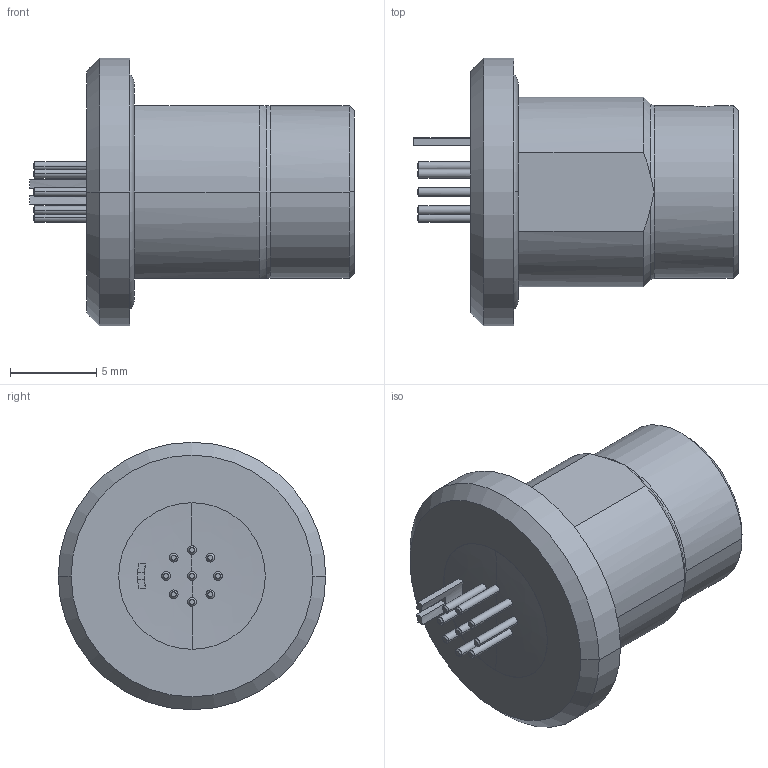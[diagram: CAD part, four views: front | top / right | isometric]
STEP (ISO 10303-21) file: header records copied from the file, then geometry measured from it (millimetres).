
FILE_DESCRIPTION((''),'2;1');
FILE_NAME('GK0Y_R-P09UC00-000L_WITHOUT-HEX','2020-10-13T11:39:25',('EUnterhaslberger'),(''),'CREO PARAMETRIC BY PTC INC, 2018300','CREO PARAMETRIC BY PTC INC, 2018300','');
FILE_SCHEMA(('AP242_MANAGED_MODEL_BASED_3D_ENGINEERING_MIM_LF { 1 0 10303 442 1 1 4 }'));
Length unit declared in the file: millimetre
Products named in the file (1): GK0Y_R-P09UC00-000L_WITHOUT-HEX
Bounding box: 18.8 x 15.5 x 15.5 mm (x, y, z)
Volume: 1257.1 mm3; surface area: 1716.2 mm2
Topology: 2 solids, 2 shells, 200 faces, 513 edges, 339 vertices
Faces by surface type: plane 62, cylinder 58, cone 52, torus 26, bspline 2
Entity records: 7714 total; most frequent: CARTESIAN_POINT 1466, DIRECTION 1088, ORIENTED_EDGE 1026, EDGE_CURVE 513, AXIS2_PLACEMENT_3D 447, VERTEX_POINT 339, CIRCLE 249, EDGE_LOOP 224
